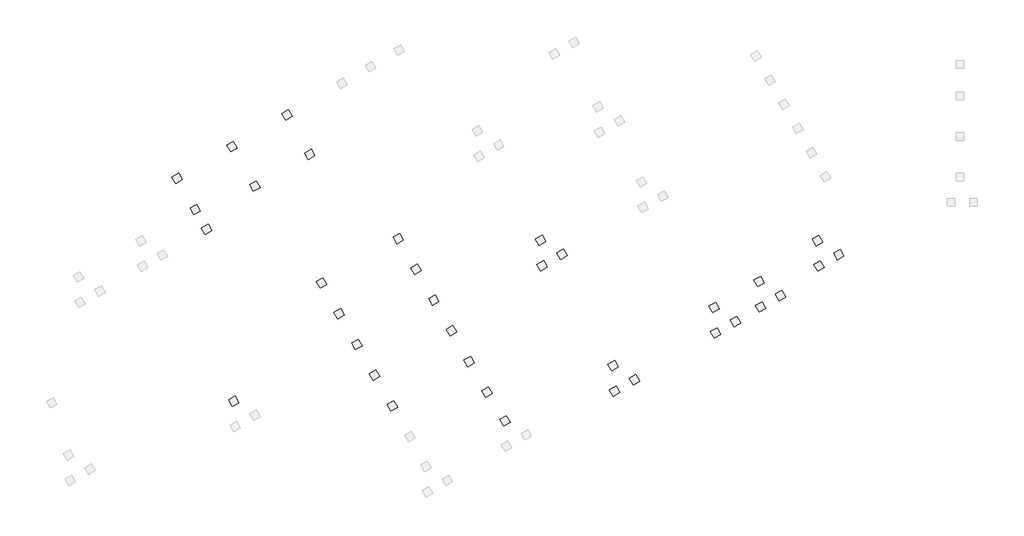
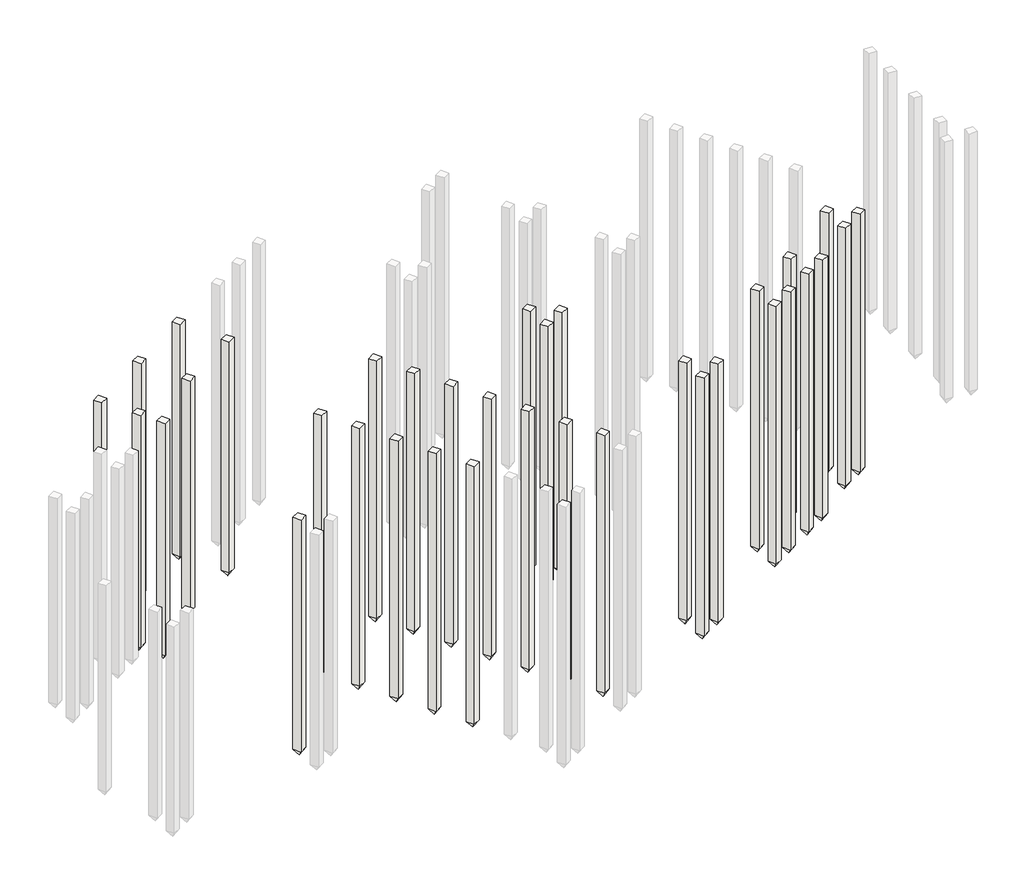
# One storey, part 2 of 6: 35 slabs.
"""IFC4 building model written with IfcOpenShell, lengths in millimetres."""

from ifc_helpers import new_model, si_unit, origin, place, context, project, spatial, faceted_brep, element, save

model = new_model("IFC4")

# Units and contexts
model_context = context("Model", 3, world=origin())
ifc_project = project(units=[si_unit("LENGTHUNIT", "METRE", prefix="MILLI")], contexts=[model_context])

# Site, building, storey
site = spatial("IfcSite", under=ifc_project)
building = spatial("IfcBuilding", under=site)
storey = spatial("IfcBuildingStorey", under=building, Name="КЖм.-1.150 (Верх свай 1)", Elevation=-1150.0)

# Slabs
placement = place(None, origin())
element("IfcSlab", 1, ObjectType="Бетонная свая прямоугольного сечения : C100.30-9", at=placement, inside=storey, context=model_context, shape_type="Brep", body=[
    faceted_brep([(13121.8088295, 8732.0915666, -1150.0), (12862.0012084, 8582.0915666, -1150.0), (13012.0012084, 8322.2839455, -1150.0), (13271.8088295, 8472.2839455, -1150.0), (13121.8088295, 8732.0915666, -1200.0), (13121.8088295, 8732.0915666, -1300.0), (13121.8088295, 8732.0915666, -11150.0), (12862.0012084, 8582.0915666, -11150.0), (12862.0012084, 8582.0915666, -1300.0), (12862.0012084, 8582.0915666, -1200.0), (13012.0012084, 8322.2839455, -11150.0), (13012.0012084, 8322.2839455, -1300.0), (13012.0012084, 8322.2839455, -1200.0), (13271.8088295, 8472.2839455, -11150.0), (13271.8088295, 8472.2839455, -1300.0), (13271.8088295, 8472.2839455, -1200.0), (13067.0808452, 8527.7283386, -11400.0), (13067.4808452, 8527.0355183, -11400.0), (13066.7880249, 8526.6355183, -11400.0), (13066.3880249, 8527.3283386, -11400.0)], [[[0, 1, 2, 3]], [[1, 0, 4, 5, 6, 7, 8, 9]], [[2, 1, 9, 8, 7, 10, 11, 12]], [[3, 2, 12, 11, 10, 13, 14, 15]], [[0, 3, 15, 14, 13, 6, 5, 4]], [[16, 17, 18, 19]], [[17, 16, 6, 13]], [[18, 17, 13, 10]], [[19, 18, 10, 7]], [[16, 19, 7, 6]]]),
])
element("IfcSlab", 2, ObjectType="Бетонная свая прямоугольного сечения : C100.30-9", at=placement, inside=storey, context=model_context, shape_type="Brep", body=[
    faceted_brep([(17446.66985, 9901.5697383, -1150.0), (17186.8622289, 9751.5697383, -1150.0), (17336.8622289, 9491.7621171, -1150.0), (17596.66985, 9641.7621171, -1150.0), (17446.66985, 9901.5697383, -1200.0), (17446.66985, 9901.5697383, -1300.0), (17446.66985, 9901.5697383, -11150.0), (17186.8622289, 9751.5697383, -11150.0), (17186.8622289, 9751.5697383, -1300.0), (17186.8622289, 9751.5697383, -1200.0), (17336.8622289, 9491.7621171, -11150.0), (17336.8622289, 9491.7621171, -1300.0), (17336.8622289, 9491.7621171, -1200.0), (17596.66985, 9641.7621171, -11150.0), (17596.66985, 9641.7621171, -1300.0), (17596.66985, 9641.7621171, -1200.0), (17391.9418657, 9697.2065102, -11400.0), (17392.3418657, 9696.5136899, -11400.0), (17391.6490454, 9696.1136899, -11400.0), (17391.2490454, 9696.8065102, -11400.0)], [[[0, 1, 2, 3]], [[1, 0, 4, 5, 6, 7, 8, 9]], [[2, 1, 9, 8, 7, 10, 11, 12]], [[3, 2, 12, 11, 10, 13, 14, 15]], [[0, 3, 15, 14, 13, 6, 5, 4]], [[16, 17, 18, 19]], [[17, 16, 6, 13]], [[18, 17, 13, 10]], [[19, 18, 10, 7]], [[16, 19, 7, 6]]]),
])
element("IfcSlab", 3, ObjectType="Бетонная свая прямоугольного сечения : C100.30-9", at=placement, inside=storey, context=model_context, shape_type="Brep", body=[
    faceted_brep([(18226.0546898, 10351.6355906, -1150.0), (17966.2470687, 10201.6355906, -1150.0), (18116.2470687, 9941.8279695, -1150.0), (18376.0546898, 10091.8279695, -1150.0), (18226.0546898, 10351.6355906, -1200.0), (18226.0546898, 10351.6355906, -1300.0), (18226.0546898, 10351.6355906, -11150.0), (17966.2470687, 10201.6355906, -11150.0), (17966.2470687, 10201.6355906, -1300.0), (17966.2470687, 10201.6355906, -1200.0), (18116.2470687, 9941.8279695, -11150.0), (18116.2470687, 9941.8279695, -1300.0), (18116.2470687, 9941.8279695, -1200.0), (18376.0546898, 10091.8279695, -11150.0), (18376.0546898, 10091.8279695, -1300.0), (18376.0546898, 10091.8279695, -1200.0), (18171.3267055, 10147.2723626, -11400.0), (18171.7267055, 10146.5795423, -11400.0), (18171.0338852, 10146.1795423, -11400.0), (18170.6338852, 10146.8723626, -11400.0)], [[[0, 1, 2, 3]], [[1, 0, 4, 5, 6, 7, 8, 9]], [[2, 1, 9, 8, 7, 10, 11, 12]], [[3, 2, 12, 11, 10, 13, 14, 15]], [[0, 3, 15, 14, 13, 6, 5, 4]], [[16, 17, 18, 19]], [[17, 16, 6, 13]], [[18, 17, 13, 10]], [[19, 18, 10, 7]], [[16, 19, 7, 6]]]),
])
element("IfcSlab", 4, ObjectType="Бетонная свая прямоугольного сечения : C100.30-9", at=placement, inside=storey, context=model_context, shape_type="Brep", body=[
    faceted_brep([(17386.2964178, 10905.9875052, -1150.0), (17126.4887967, 10755.9875052, -1150.0), (17276.4887967, 10496.1798841, -1150.0), (17536.2964178, 10646.1798841, -1150.0), (17386.2964178, 10905.9875052, -1200.0), (17386.2964178, 10905.9875052, -1300.0), (17386.2964178, 10905.9875052, -11150.0), (17126.4887967, 10755.9875052, -11150.0), (17126.4887967, 10755.9875052, -1300.0), (17126.4887967, 10755.9875052, -1200.0), (17276.4887967, 10496.1798841, -11150.0), (17276.4887967, 10496.1798841, -1300.0), (17276.4887967, 10496.1798841, -1200.0), (17536.2964178, 10646.1798841, -11150.0), (17536.2964178, 10646.1798841, -1300.0), (17536.2964178, 10646.1798841, -1200.0), (17331.5684335, 10701.6242771, -11400.0), (17331.9684335, 10700.9314568, -11400.0), (17331.2756131, 10700.5314568, -11400.0), (17330.8756131, 10701.2242771, -11400.0)], [[[0, 1, 2, 3]], [[1, 0, 4, 5, 6, 7, 8, 9]], [[2, 1, 9, 8, 7, 10, 11, 12]], [[3, 2, 12, 11, 10, 13, 14, 15]], [[0, 3, 15, 14, 13, 6, 5, 4]], [[16, 17, 18, 19]], [[17, 16, 6, 13]], [[18, 17, 13, 10]], [[19, 18, 10, 7]], [[16, 19, 7, 6]]]),
])
element("IfcSlab", 5, ObjectType="Бетонная свая прямоугольного сечения : C100.30-9", at=placement, inside=storey, context=model_context, shape_type="Brep", body=[
    faceted_brep([(21430.3926606, 12202.0236698, -1150.0), (21170.5850395, 12052.0236698, -1150.0), (21320.5850395, 11792.2160487, -1150.0), (21580.3926606, 11942.2160487, -1150.0), (21430.3926606, 12202.0236698, -1200.0), (21430.3926606, 12202.0236698, -1300.0), (21430.3926606, 12202.0236698, -11150.0), (21170.5850395, 12052.0236698, -11150.0), (21170.5850395, 12052.0236698, -1300.0), (21170.5850395, 12052.0236698, -1200.0), (21320.5850395, 11792.2160487, -11150.0), (21320.5850395, 11792.2160487, -1300.0), (21320.5850395, 11792.2160487, -1200.0), (21580.3926606, 11942.2160487, -11150.0), (21580.3926606, 11942.2160487, -1300.0), (21580.3926606, 11942.2160487, -1200.0), (21375.6646763, 11997.6604418, -11400.0), (21376.0646763, 11996.9676214, -11400.0), (21375.371856, 11996.5676214, -11400.0), (21374.971856, 11997.2604418, -11400.0)], [[[0, 1, 2, 3]], [[1, 0, 4, 5, 6, 7, 8, 9]], [[2, 1, 9, 8, 7, 10, 11, 12]], [[3, 2, 12, 11, 10, 13, 14, 15]], [[0, 3, 15, 14, 13, 6, 5, 4]], [[16, 17, 18, 19]], [[17, 16, 6, 13]], [[18, 17, 13, 10]], [[19, 18, 10, 7]], [[16, 19, 7, 6]]]),
])
element("IfcSlab", 6, ObjectType="Бетонная свая прямоугольного сечения : C100.30-9", at=placement, inside=storey, context=model_context, shape_type="Brep", body=[
    faceted_brep([(22209.7775004, 12652.0895222, -1150.0), (21949.9698793, 12502.0895222, -1150.0), (22099.9698793, 12242.281901, -1150.0), (22359.7775004, 12392.281901, -1150.0), (22209.7775004, 12652.0895222, -1200.0), (22209.7775004, 12652.0895222, -1300.0), (22209.7775004, 12652.0895222, -11150.0), (21949.9698793, 12502.0895222, -11150.0), (21949.9698793, 12502.0895222, -1300.0), (21949.9698793, 12502.0895222, -1200.0), (22099.9698793, 12242.281901, -11150.0), (22099.9698793, 12242.281901, -1300.0), (22099.9698793, 12242.281901, -1200.0), (22359.7775004, 12392.281901, -11150.0), (22359.7775004, 12392.281901, -1300.0), (22359.7775004, 12392.281901, -1200.0), (22155.0495161, 12447.7262941, -11400.0), (22155.4495161, 12447.0334738, -11400.0), (22154.7566958, 12446.6334738, -11400.0), (22154.3566958, 12447.3262941, -11400.0)], [[[0, 1, 2, 3]], [[1, 0, 4, 5, 6, 7, 8, 9]], [[2, 1, 9, 8, 7, 10, 11, 12]], [[3, 2, 12, 11, 10, 13, 14, 15]], [[0, 3, 15, 14, 13, 6, 5, 4]], [[16, 17, 18, 19]], [[17, 16, 6, 13]], [[18, 17, 13, 10]], [[19, 18, 10, 7]], [[16, 19, 7, 6]]]),
])
element("IfcSlab", 7, ObjectType="Бетонная свая прямоугольного сечения : C100.30-9", at=placement, inside=storey, context=model_context, shape_type="Brep", body=[
    faceted_brep([(21370.0192284, 13206.4414367, -1150.0), (21110.2116073, 13056.4414367, -1150.0), (21260.2116073, 12796.6338156, -1150.0), (21520.0192284, 12946.6338156, -1150.0), (21370.0192284, 13206.4414367, -1200.0), (21370.0192284, 13206.4414367, -1300.0), (21370.0192284, 13206.4414367, -11150.0), (21110.2116073, 13056.4414367, -11150.0), (21110.2116073, 13056.4414367, -1300.0), (21110.2116073, 13056.4414367, -1200.0), (21260.2116073, 12796.6338156, -11150.0), (21260.2116073, 12796.6338156, -1300.0), (21260.2116073, 12796.6338156, -1200.0), (21520.0192284, 12946.6338156, -11150.0), (21520.0192284, 12946.6338156, -1300.0), (21520.0192284, 12946.6338156, -1200.0), (21315.2912441, 13002.0782087, -11400.0), (21315.6912441, 13001.3853884, -11400.0), (21314.9984237, 13000.9853884, -11400.0), (21314.5984237, 13001.6782087, -11400.0)], [[[0, 1, 2, 3]], [[1, 0, 4, 5, 6, 7, 8, 9]], [[2, 1, 9, 8, 7, 10, 11, 12]], [[3, 2, 12, 11, 10, 13, 14, 15]], [[0, 3, 15, 14, 13, 6, 5, 4]], [[16, 17, 18, 19]], [[17, 16, 6, 13]], [[18, 17, 13, 10]], [[19, 18, 10, 7]], [[16, 19, 7, 6]]]),
])
element("IfcSlab", 8, ObjectType="Бетонная свая прямоугольного сечения : C100.30-9", at=placement, inside=storey, context=model_context, shape_type="Brep", body=[
    faceted_brep([(23205.4567886, 13227.0581522, -1150.0), (22945.6491675, 13077.0581522, -1150.0), (23095.6491675, 12817.250531, -1150.0), (23355.4567886, 12967.250531, -1150.0), (23205.4567886, 13227.0581522, -1200.0), (23205.4567886, 13227.0581522, -1300.0), (23205.4567886, 13227.0581522, -11150.0), (22945.6491675, 13077.0581522, -11150.0), (22945.6491675, 13077.0581522, -1300.0), (22945.6491675, 13077.0581522, -1200.0), (23095.6491675, 12817.250531, -11150.0), (23095.6491675, 12817.250531, -1300.0), (23095.6491675, 12817.250531, -1200.0), (23355.4567886, 12967.250531, -11150.0), (23355.4567886, 12967.250531, -1300.0), (23355.4567886, 12967.250531, -1200.0), (23150.7288042, 13022.6949241, -11400.0), (23151.1288042, 13022.0021038, -11400.0), (23150.4359839, 13021.6021038, -11400.0), (23150.0359839, 13022.2949241, -11400.0)], [[[0, 1, 2, 3]], [[1, 0, 4, 5, 6, 7, 8, 9]], [[2, 1, 9, 8, 7, 10, 11, 12]], [[3, 2, 12, 11, 10, 13, 14, 15]], [[0, 3, 15, 14, 13, 6, 5, 4]], [[16, 17, 18, 19]], [[17, 16, 6, 13]], [[18, 17, 13, 10]], [[19, 18, 10, 7]], [[16, 19, 7, 6]]]),
])
element("IfcSlab", 9, ObjectType="Бетонная свая прямоугольного сечения : C100.30-9", at=placement, inside=storey, context=model_context, shape_type="Brep", body=[
    faceted_brep([(23984.8416284, 13677.1240046, -1150.0), (23725.0340073, 13527.1240046, -1150.0), (23875.0340073, 13267.3163834, -1150.0), (24134.8416284, 13417.3163834, -1150.0), (23984.8416284, 13677.1240046, -1200.0), (23984.8416284, 13677.1240046, -1300.0), (23984.8416284, 13677.1240046, -11150.0), (23725.0340073, 13527.1240046, -11150.0), (23725.0340073, 13527.1240046, -1300.0), (23725.0340073, 13527.1240046, -1200.0), (23875.0340073, 13267.3163834, -11150.0), (23875.0340073, 13267.3163834, -1300.0), (23875.0340073, 13267.3163834, -1200.0), (24134.8416284, 13417.3163834, -11150.0), (24134.8416284, 13417.3163834, -1300.0), (24134.8416284, 13417.3163834, -1200.0), (23930.1136441, 13472.7607765, -11400.0), (23930.5136441, 13472.0679562, -11400.0), (23929.8208237, 13471.6679562, -11400.0), (23929.4208237, 13472.3607765, -11400.0)], [[[0, 1, 2, 3]], [[1, 0, 4, 5, 6, 7, 8, 9]], [[2, 1, 9, 8, 7, 10, 11, 12]], [[3, 2, 12, 11, 10, 13, 14, 15]], [[0, 3, 15, 14, 13, 6, 5, 4]], [[16, 17, 18, 19]], [[17, 16, 6, 13]], [[18, 17, 13, 10]], [[19, 18, 10, 7]], [[16, 19, 7, 6]]]),
])
element("IfcSlab", 10, ObjectType="Бетонная свая прямоугольного сечения : C100.30-9", at=placement, inside=storey, context=model_context, shape_type="Brep", body=[
    faceted_brep([(23145.0833564, 14231.4759191, -1150.0), (22885.2757352, 14081.4759191, -1150.0), (23035.2757352, 13821.668298, -1150.0), (23295.0833564, 13971.668298, -1150.0), (23145.0833564, 14231.4759191, -1200.0), (23145.0833564, 14231.4759191, -1300.0), (23145.0833564, 14231.4759191, -11150.0), (22885.2757352, 14081.4759191, -11150.0), (22885.2757352, 14081.4759191, -1300.0), (22885.2757352, 14081.4759191, -1200.0), (23035.2757352, 13821.668298, -11150.0), (23035.2757352, 13821.668298, -1300.0), (23035.2757352, 13821.668298, -1200.0), (23295.0833564, 13971.668298, -11150.0), (23295.0833564, 13971.668298, -1300.0), (23295.0833564, 13971.668298, -1200.0), (23090.355372, 14027.1126911, -11400.0), (23090.755372, 14026.4198707, -11400.0), (23090.0625517, 14026.0198707, -11400.0), (23089.6625517, 14026.7126911, -11400.0)], [[[0, 1, 2, 3]], [[1, 0, 4, 5, 6, 7, 8, 9]], [[2, 1, 9, 8, 7, 10, 11, 12]], [[3, 2, 12, 11, 10, 13, 14, 15]], [[0, 3, 15, 14, 13, 6, 5, 4]], [[16, 17, 18, 19]], [[17, 16, 6, 13]], [[18, 17, 13, 10]], [[19, 18, 10, 7]], [[16, 19, 7, 6]]]),
])
element("IfcSlab", 11, ObjectType="Бетонная свая прямоугольного сечения : C100.30-9", at=placement, inside=storey, context=model_context, shape_type="Brep", body=[
    faceted_brep([(14586.2554737, 14854.9825627, -1150.0), (14326.4478526, 14704.9825627, -1150.0), (14476.4478526, 14445.1749415, -1150.0), (14736.2554737, 14595.1749415, -1150.0), (14586.2554737, 14854.9825627, -1200.0), (14586.2554737, 14854.9825627, -1300.0), (14586.2554737, 14854.9825627, -11150.0), (14326.4478526, 14704.9825627, -11150.0), (14326.4478526, 14704.9825627, -1300.0), (14326.4478526, 14704.9825627, -1200.0), (14476.4478526, 14445.1749415, -11150.0), (14476.4478526, 14445.1749415, -1300.0), (14476.4478526, 14445.1749415, -1200.0), (14736.2554737, 14595.1749415, -11150.0), (14736.2554737, 14595.1749415, -1300.0), (14736.2554737, 14595.1749415, -1200.0), (14531.5274894, 14650.6193346, -11400.0), (14531.9274894, 14649.9265143, -11400.0), (14531.234669, 14649.5265143, -11400.0), (14530.834669, 14650.2193346, -11400.0)], [[[0, 1, 2, 3]], [[1, 0, 4, 5, 6, 7, 8, 9]], [[2, 1, 9, 8, 7, 10, 11, 12]], [[3, 2, 12, 11, 10, 13, 14, 15]], [[0, 3, 15, 14, 13, 6, 5, 4]], [[16, 17, 18, 19]], [[17, 16, 6, 13]], [[18, 17, 13, 10]], [[19, 18, 10, 7]], [[16, 19, 7, 6]]]),
])
element("IfcSlab", 12, ObjectType="Бетонная свая прямоугольного сечения : C100.30-9", at=placement, inside=storey, context=model_context, shape_type="Brep", body=[
    faceted_brep([(15365.6403135, 15305.0484151, -1150.0), (15105.8326924, 15155.0484151, -1150.0), (15255.8326924, 14895.2407939, -1150.0), (15515.6403135, 15045.2407939, -1150.0), (15365.6403135, 15305.0484151, -1200.0), (15365.6403135, 15305.0484151, -1300.0), (15365.6403135, 15305.0484151, -11150.0), (15105.8326924, 15155.0484151, -11150.0), (15105.8326924, 15155.0484151, -1300.0), (15105.8326924, 15155.0484151, -1200.0), (15255.8326924, 14895.2407939, -11150.0), (15255.8326924, 14895.2407939, -1300.0), (15255.8326924, 14895.2407939, -1200.0), (15515.6403135, 15045.2407939, -11150.0), (15515.6403135, 15045.2407939, -1300.0), (15515.6403135, 15045.2407939, -1200.0), (15310.9123292, 15100.685187, -11400.0), (15311.3123292, 15099.9923667, -11400.0), (15310.6195089, 15099.5923667, -11400.0), (15310.2195089, 15100.285187, -11400.0)], [[[0, 1, 2, 3]], [[1, 0, 4, 5, 6, 7, 8, 9]], [[2, 1, 9, 8, 7, 10, 11, 12]], [[3, 2, 12, 11, 10, 13, 14, 15]], [[0, 3, 15, 14, 13, 6, 5, 4]], [[16, 17, 18, 19]], [[17, 16, 6, 13]], [[18, 17, 13, 10]], [[19, 18, 10, 7]], [[16, 19, 7, 6]]]),
])
element("IfcSlab", 13, ObjectType="Бетонная свая прямоугольного сечения : C100.30-9", at=placement, inside=storey, context=model_context, shape_type="Brep", body=[
    faceted_brep([(14525.8820415, 15859.4003296, -1150.0), (14266.0744204, 15709.4003296, -1150.0), (14416.0744204, 15449.5927085, -1150.0), (14675.8820415, 15599.5927085, -1150.0), (14525.8820415, 15859.4003296, -1200.0), (14525.8820415, 15859.4003296, -1300.0), (14525.8820415, 15859.4003296, -11150.0), (14266.0744204, 15709.4003296, -11150.0), (14266.0744204, 15709.4003296, -1300.0), (14266.0744204, 15709.4003296, -1200.0), (14416.0744204, 15449.5927085, -11150.0), (14416.0744204, 15449.5927085, -1300.0), (14416.0744204, 15449.5927085, -1200.0), (14675.8820415, 15599.5927085, -11150.0), (14675.8820415, 15599.5927085, -1300.0), (14675.8820415, 15599.5927085, -1200.0), (14471.1540572, 15655.0371016, -11400.0), (14471.5540572, 15654.3442812, -11400.0), (14470.8612368, 15653.9442812, -11400.0), (14470.4612368, 15654.6371016, -11400.0)], [[[0, 1, 2, 3]], [[1, 0, 4, 5, 6, 7, 8, 9]], [[2, 1, 9, 8, 7, 10, 11, 12]], [[3, 2, 12, 11, 10, 13, 14, 15]], [[0, 3, 15, 14, 13, 6, 5, 4]], [[16, 17, 18, 19]], [[17, 16, 6, 13]], [[18, 17, 13, 10]], [[19, 18, 10, 7]], [[16, 19, 7, 6]]]),
])
element("IfcSlab", 14, ObjectType="Бетонная свая прямоугольного сечения : C100.30-9", at=placement, inside=storey, context=model_context, shape_type="Brep", body=[
    faceted_brep([(12407.2277087, 9861.1525782, -1150.0), (12147.4200876, 9711.1525782, -1150.0), (12297.4200876, 9451.3449571, -1150.0), (12557.2277087, 9601.3449571, -1150.0), (12407.2277087, 9861.1525782, -1200.0), (12407.2277087, 9861.1525782, -1300.0), (12407.2277087, 9861.1525782, -11150.0), (12147.4200876, 9711.1525782, -11150.0), (12147.4200876, 9711.1525782, -1300.0), (12147.4200876, 9711.1525782, -1200.0), (12297.4200876, 9451.3449571, -11150.0), (12297.4200876, 9451.3449571, -1300.0), (12297.4200876, 9451.3449571, -1200.0), (12557.2277087, 9601.3449571, -11150.0), (12557.2277087, 9601.3449571, -1300.0), (12557.2277087, 9601.3449571, -1200.0), (12352.4997243, 9656.7893502, -11400.0), (12352.8997243, 9656.0965299, -11400.0), (12352.206904, 9655.6965299, -11400.0), (12351.806904, 9656.3893502, -11400.0)], [[[0, 1, 2, 3]], [[1, 0, 4, 5, 6, 7, 8, 9]], [[2, 1, 9, 8, 7, 10, 11, 12]], [[3, 2, 12, 11, 10, 13, 14, 15]], [[0, 3, 15, 14, 13, 6, 5, 4]], [[16, 17, 18, 19]], [[17, 16, 6, 13]], [[18, 17, 13, 10]], [[19, 18, 10, 7]], [[16, 19, 7, 6]]]),
])
element("IfcSlab", 15, ObjectType="Бетонная свая прямоугольного сечения : C100.30-9", at=placement, inside=storey, context=model_context, shape_type="Brep", body=[
    faceted_brep([(11707.8501895, 11073.9473216, -1150.0), (11448.0425684, 10923.9473216, -1150.0), (11598.0425684, 10664.1397005, -1150.0), (11857.8501895, 10814.1397005, -1150.0), (11707.8501895, 11073.9473216, -1200.0), (11707.8501895, 11073.9473216, -1300.0), (11707.8501895, 11073.9473216, -11150.0), (11448.0425684, 10923.9473216, -11150.0), (11448.0425684, 10923.9473216, -1300.0), (11448.0425684, 10923.9473216, -1200.0), (11598.0425684, 10664.1397005, -11150.0), (11598.0425684, 10664.1397005, -1300.0), (11598.0425684, 10664.1397005, -1200.0), (11857.8501895, 10814.1397005, -11150.0), (11857.8501895, 10814.1397005, -1300.0), (11857.8501895, 10814.1397005, -1200.0), (11653.1222052, 10869.5840935, -11400.0), (11653.5222052, 10868.8912732, -11400.0), (11652.8293848, 10868.4912732, -11400.0), (11652.4293848, 10869.1840935, -11400.0)], [[[0, 1, 2, 3]], [[1, 0, 4, 5, 6, 7, 8, 9]], [[2, 1, 9, 8, 7, 10, 11, 12]], [[3, 2, 12, 11, 10, 13, 14, 15]], [[0, 3, 15, 14, 13, 6, 5, 4]], [[16, 17, 18, 19]], [[17, 16, 6, 13]], [[18, 17, 13, 10]], [[19, 18, 10, 7]], [[16, 19, 7, 6]]]),
])
element("IfcSlab", 16, ObjectType="Бетонная свая прямоугольного сечения : C100.30-9", at=placement, inside=storey, context=model_context, shape_type="Brep", body=[
    faceted_brep([(11008.472671, 12286.7420638, -1150.0), (10748.6650499, 12136.7420638, -1150.0), (10898.6650499, 11876.9344426, -1150.0), (11158.472671, 12026.9344426, -1150.0), (11008.472671, 12286.7420638, -1200.0), (11008.472671, 12286.7420638, -1300.0), (11008.472671, 12286.7420638, -11150.0), (10748.6650499, 12136.7420638, -11150.0), (10748.6650499, 12136.7420638, -1300.0), (10748.6650499, 12136.7420638, -1200.0), (10898.6650499, 11876.9344426, -11150.0), (10898.6650499, 11876.9344426, -1300.0), (10898.6650499, 11876.9344426, -1200.0), (11158.472671, 12026.9344426, -11150.0), (11158.472671, 12026.9344426, -1300.0), (11158.472671, 12026.9344426, -1200.0), (10953.7446867, 12082.3788357, -11400.0), (10954.1446867, 12081.6860154, -11400.0), (10953.4518663, 12081.2860154, -11400.0), (10953.0518663, 12081.9788357, -11400.0)], [[[0, 1, 2, 3]], [[1, 0, 4, 5, 6, 7, 8, 9]], [[2, 1, 9, 8, 7, 10, 11, 12]], [[3, 2, 12, 11, 10, 13, 14, 15]], [[0, 3, 15, 14, 13, 6, 5, 4]], [[16, 17, 18, 19]], [[17, 16, 6, 13]], [[18, 17, 13, 10]], [[19, 18, 10, 7]], [[16, 19, 7, 6]]]),
])
element("IfcSlab", 17, ObjectType="Бетонная свая прямоугольного сечения : C100.30-9", at=placement, inside=storey, context=model_context, shape_type="Brep", body=[
    faceted_brep([(10309.0951525, 13499.5368059, -1150.0), (10049.2875314, 13349.5368059, -1150.0), (10199.2875314, 13089.7291848, -1150.0), (10459.0951525, 13239.7291848, -1150.0), (10309.0951525, 13499.5368059, -1200.0), (10309.0951525, 13499.5368059, -1300.0), (10309.0951525, 13499.5368059, -11150.0), (10049.2875314, 13349.5368059, -11150.0), (10049.2875314, 13349.5368059, -1300.0), (10049.2875314, 13349.5368059, -1200.0), (10199.2875314, 13089.7291848, -11150.0), (10199.2875314, 13089.7291848, -1300.0), (10199.2875314, 13089.7291848, -1200.0), (10459.0951525, 13239.7291848, -11150.0), (10459.0951525, 13239.7291848, -1300.0), (10459.0951525, 13239.7291848, -1200.0), (10254.3671682, 13295.1735779, -11400.0), (10254.7671682, 13294.4807576, -11400.0), (10254.0743479, 13294.0807576, -11400.0), (10253.6743479, 13294.7735779, -11400.0)], [[[0, 1, 2, 3]], [[1, 0, 4, 5, 6, 7, 8, 9]], [[2, 1, 9, 8, 7, 10, 11, 12]], [[3, 2, 12, 11, 10, 13, 14, 15]], [[0, 3, 15, 14, 13, 6, 5, 4]], [[16, 17, 18, 19]], [[17, 16, 6, 13]], [[18, 17, 13, 10]], [[19, 18, 10, 7]], [[16, 19, 7, 6]]]),
])
element("IfcSlab", 18, ObjectType="Бетонная свая прямоугольного сечения : C100.30-9", at=placement, inside=storey, context=model_context, shape_type="Brep", body=[
    faceted_brep([(9609.717634, 14712.3315481, -1150.0), (9349.9100129, 14562.3315481, -1150.0), (9499.9100129, 14302.523927, -1150.0), (9759.717634, 14452.523927, -1150.0), (9609.717634, 14712.3315481, -1200.0), (9609.717634, 14712.3315481, -1300.0), (9609.717634, 14712.3315481, -11150.0), (9349.9100129, 14562.3315481, -11150.0), (9349.9100129, 14562.3315481, -1300.0), (9349.9100129, 14562.3315481, -1200.0), (9499.9100129, 14302.523927, -11150.0), (9499.9100129, 14302.523927, -1300.0), (9499.9100129, 14302.523927, -1200.0), (9759.717634, 14452.523927, -11150.0), (9759.717634, 14452.523927, -1300.0), (9759.717634, 14452.523927, -1200.0), (9554.9896497, 14507.96832, -11400.0), (9555.3896497, 14507.2754997, -11400.0), (9554.6968294, 14506.8754997, -11400.0), (9554.2968294, 14507.56832, -11400.0)], [[[0, 1, 2, 3]], [[1, 0, 4, 5, 6, 7, 8, 9]], [[2, 1, 9, 8, 7, 10, 11, 12]], [[3, 2, 12, 11, 10, 13, 14, 15]], [[0, 3, 15, 14, 13, 6, 5, 4]], [[16, 17, 18, 19]], [[17, 16, 6, 13]], [[18, 17, 13, 10]], [[19, 18, 10, 7]], [[16, 19, 7, 6]]]),
])
element("IfcSlab", 19, ObjectType="Бетонная свая прямоугольного сечения : C100.30-9", at=placement, inside=storey, context=model_context, shape_type="Brep", body=[
    faceted_brep([(8910.3401155, 15925.1262903, -1150.0), (8650.5324944, 15775.1262903, -1150.0), (8800.5324944, 15515.3186691, -1150.0), (9060.3401155, 15665.3186691, -1150.0), (8910.3401155, 15925.1262903, -1200.0), (8910.3401155, 15925.1262903, -1300.0), (8910.3401155, 15925.1262903, -11150.0), (8650.5324944, 15775.1262903, -11150.0), (8650.5324944, 15775.1262903, -1300.0), (8650.5324944, 15775.1262903, -1200.0), (8800.5324944, 15515.3186691, -11150.0), (8800.5324944, 15515.3186691, -1300.0), (8800.5324944, 15515.3186691, -1200.0), (9060.3401155, 15665.3186691, -11150.0), (9060.3401155, 15665.3186691, -1300.0), (9060.3401155, 15665.3186691, -1200.0), (8855.6121312, 15720.7630622, -11400.0), (8856.0121312, 15720.0702419, -11400.0), (8855.3193109, 15719.6702419, -11400.0), (8854.9193109, 15720.3630622, -11400.0)], [[[0, 1, 2, 3]], [[1, 0, 4, 5, 6, 7, 8, 9]], [[2, 1, 9, 8, 7, 10, 11, 12]], [[3, 2, 12, 11, 10, 13, 14, 15]], [[0, 3, 15, 14, 13, 6, 5, 4]], [[16, 17, 18, 19]], [[17, 16, 6, 13]], [[18, 17, 13, 10]], [[19, 18, 10, 7]], [[16, 19, 7, 6]]]),
])
element("IfcSlab", 20, ObjectType="Бетонная свая прямоугольного сечения : C100.30-9", at=placement, inside=storey, context=model_context, shape_type="Brep", body=[
    faceted_brep([(8676.9094234, 9323.6901055, -1150.0), (8417.1018023, 9173.6901055, -1150.0), (8567.1018023, 8913.8824844, -1150.0), (8826.9094234, 9063.8824844, -1150.0), (8676.9094234, 9323.6901055, -1200.0), (8676.9094234, 9323.6901055, -1300.0), (8676.9094234, 9323.6901055, -11150.0), (8417.1018023, 9173.6901055, -11150.0), (8417.1018023, 9173.6901055, -1300.0), (8417.1018023, 9173.6901055, -1200.0), (8567.1018023, 8913.8824844, -11150.0), (8567.1018023, 8913.8824844, -1300.0), (8567.1018023, 8913.8824844, -1200.0), (8826.9094234, 9063.8824844, -11150.0), (8826.9094234, 9063.8824844, -1300.0), (8826.9094234, 9063.8824844, -1200.0), (8622.1814391, 9119.3268775, -11400.0), (8622.5814391, 9118.6340572, -11400.0), (8621.8886187, 9118.2340572, -11400.0), (8621.4886187, 9118.9268775, -11400.0)], [[[0, 1, 2, 3]], [[1, 0, 4, 5, 6, 7, 8, 9]], [[2, 1, 9, 8, 7, 10, 11, 12]], [[3, 2, 12, 11, 10, 13, 14, 15]], [[0, 3, 15, 14, 13, 6, 5, 4]], [[16, 17, 18, 19]], [[17, 16, 6, 13]], [[18, 17, 13, 10]], [[19, 18, 10, 7]], [[16, 19, 7, 6]]]),
])
element("IfcSlab", 21, ObjectType="Бетонная свая прямоугольного сечения : C100.30-9", at=placement, inside=storey, context=model_context, shape_type="Brep", body=[
    faceted_brep([(7977.5319056, 10536.4848465, -1150.0), (7717.7242845, 10386.4848465, -1150.0), (7867.7242845, 10126.6772254, -1150.0), (8127.5319056, 10276.6772254, -1150.0), (7977.5319056, 10536.4848465, -1200.0), (7977.5319056, 10536.4848465, -1300.0), (7977.5319056, 10536.4848465, -11150.0), (7717.7242845, 10386.4848465, -11150.0), (7717.7242845, 10386.4848465, -1300.0), (7717.7242845, 10386.4848465, -1200.0), (7867.7242845, 10126.6772254, -11150.0), (7867.7242845, 10126.6772254, -1300.0), (7867.7242845, 10126.6772254, -1200.0), (8127.5319056, 10276.6772254, -11150.0), (8127.5319056, 10276.6772254, -1300.0), (8127.5319056, 10276.6772254, -1200.0), (7922.8039212, 10332.1216185, -11400.0), (7923.2039212, 10331.4287982, -11400.0), (7922.5111009, 10331.0287982, -11400.0), (7922.1111009, 10331.7216185, -11400.0)], [[[0, 1, 2, 3]], [[1, 0, 4, 5, 6, 7, 8, 9]], [[2, 1, 9, 8, 7, 10, 11, 12]], [[3, 2, 12, 11, 10, 13, 14, 15]], [[0, 3, 15, 14, 13, 6, 5, 4]], [[16, 17, 18, 19]], [[17, 16, 6, 13]], [[18, 17, 13, 10]], [[19, 18, 10, 7]], [[16, 19, 7, 6]]]),
])
element("IfcSlab", 22, ObjectType="Бетонная свая прямоугольного сечения : C100.30-9", at=placement, inside=storey, context=model_context, shape_type="Brep", body=[
    faceted_brep([(7278.1543864, 11749.2795899, -1150.0), (7018.3467653, 11599.2795899, -1150.0), (7168.3467653, 11339.4719687, -1150.0), (7428.1543864, 11489.4719687, -1150.0), (7278.1543864, 11749.2795899, -1200.0), (7278.1543864, 11749.2795899, -1300.0), (7278.1543864, 11749.2795899, -11150.0), (7018.3467653, 11599.2795899, -11150.0), (7018.3467653, 11599.2795899, -1300.0), (7018.3467653, 11599.2795899, -1200.0), (7168.3467653, 11339.4719687, -11150.0), (7168.3467653, 11339.4719687, -1300.0), (7168.3467653, 11339.4719687, -1200.0), (7428.1543864, 11489.4719687, -11150.0), (7428.1543864, 11489.4719687, -1300.0), (7428.1543864, 11489.4719687, -1200.0), (7223.4264021, 11544.9163618, -11400.0), (7223.8264021, 11544.2235415, -11400.0), (7223.1335818, 11543.8235415, -11400.0), (7222.7335818, 11544.5163618, -11400.0)], [[[0, 1, 2, 3]], [[1, 0, 4, 5, 6, 7, 8, 9]], [[2, 1, 9, 8, 7, 10, 11, 12]], [[3, 2, 12, 11, 10, 13, 14, 15]], [[0, 3, 15, 14, 13, 6, 5, 4]], [[16, 17, 18, 19]], [[17, 16, 6, 13]], [[18, 17, 13, 10]], [[19, 18, 10, 7]], [[16, 19, 7, 6]]]),
])
element("IfcSlab", 23, ObjectType="Бетонная свая прямоугольного сечения : C100.30-9", at=placement, inside=storey, context=model_context, shape_type="Brep", body=[
    faceted_brep([(6578.7768679, 12962.074332, -1150.0), (6318.9692468, 12812.074332, -1150.0), (6468.9692468, 12552.2667109, -1150.0), (6728.7768679, 12702.2667109, -1150.0), (6578.7768679, 12962.074332, -1200.0), (6578.7768679, 12962.074332, -1300.0), (6578.7768679, 12962.074332, -11150.0), (6318.9692468, 12812.074332, -11150.0), (6318.9692468, 12812.074332, -1300.0), (6318.9692468, 12812.074332, -1200.0), (6468.9692468, 12552.2667109, -11150.0), (6468.9692468, 12552.2667109, -1300.0), (6468.9692468, 12552.2667109, -1200.0), (6728.7768679, 12702.2667109, -11150.0), (6728.7768679, 12702.2667109, -1300.0), (6728.7768679, 12702.2667109, -1200.0), (6524.0488836, 12757.711104, -11400.0), (6524.4488836, 12757.0182837, -11400.0), (6523.7560633, 12756.6182837, -11400.0), (6523.3560633, 12757.311104, -11400.0)], [[[0, 1, 2, 3]], [[1, 0, 4, 5, 6, 7, 8, 9]], [[2, 1, 9, 8, 7, 10, 11, 12]], [[3, 2, 12, 11, 10, 13, 14, 15]], [[0, 3, 15, 14, 13, 6, 5, 4]], [[16, 17, 18, 19]], [[17, 16, 6, 13]], [[18, 17, 13, 10]], [[19, 18, 10, 7]], [[16, 19, 7, 6]]]),
])
element("IfcSlab", 24, ObjectType="Бетонная свая прямоугольного сечения : C100.30-9", at=placement, inside=storey, context=model_context, shape_type="Brep", body=[
    faceted_brep([(5879.3993494, 14174.8690742, -1150.0), (5619.5917283, 14024.8690742, -1150.0), (5769.5917283, 13765.0614531, -1150.0), (6029.3993494, 13915.0614531, -1150.0), (5879.3993494, 14174.8690742, -1200.0), (5879.3993494, 14174.8690742, -1300.0), (5879.3993494, 14174.8690742, -11150.0), (5619.5917283, 14024.8690742, -11150.0), (5619.5917283, 14024.8690742, -1300.0), (5619.5917283, 14024.8690742, -1200.0), (5769.5917283, 13765.0614531, -11150.0), (5769.5917283, 13765.0614531, -1300.0), (5769.5917283, 13765.0614531, -1200.0), (6029.3993494, 13915.0614531, -11150.0), (6029.3993494, 13915.0614531, -1300.0), (6029.3993494, 13915.0614531, -1200.0), (5824.6713651, 13970.5058462, -11400.0), (5825.0713651, 13969.8130258, -11400.0), (5824.3785448, 13969.4130258, -11400.0), (5823.9785448, 13970.1058462, -11400.0)], [[[0, 1, 2, 3]], [[1, 0, 4, 5, 6, 7, 8, 9]], [[2, 1, 9, 8, 7, 10, 11, 12]], [[3, 2, 12, 11, 10, 13, 14, 15]], [[0, 3, 15, 14, 13, 6, 5, 4]], [[16, 17, 18, 19]], [[17, 16, 6, 13]], [[18, 17, 13, 10]], [[19, 18, 10, 7]], [[16, 19, 7, 6]]]),
])
element("IfcSlab", 25, ObjectType="Бетонная свая прямоугольного сечения : C100.30-9", at=placement, inside=storey, context=model_context, shape_type="Brep", body=[
    faceted_brep([(25505.2124567, 14843.766151, -1150.0), (25245.4048356, 14693.766151, -1150.0), (25395.4048356, 14433.9585299, -1150.0), (25655.2124567, 14583.9585299, -1150.0), (25505.2124567, 14843.766151, -1200.0), (25505.2124567, 14843.766151, -1300.0), (25505.2124567, 14843.766151, -11150.0), (25245.4048356, 14693.766151, -11150.0), (25245.4048356, 14693.766151, -1300.0), (25245.4048356, 14693.766151, -1200.0), (25395.4048356, 14433.9585299, -11150.0), (25395.4048356, 14433.9585299, -1300.0), (25395.4048356, 14433.9585299, -1200.0), (25655.2124567, 14583.9585299, -11150.0), (25655.2124567, 14583.9585299, -1300.0), (25655.2124567, 14583.9585299, -1200.0), (25450.4844724, 14639.4029229, -11400.0), (25450.8844724, 14638.7101026, -11400.0), (25450.191652, 14638.3101026, -11400.0), (25449.791652, 14639.0029229, -11400.0)], [[[0, 1, 2, 3]], [[1, 0, 4, 5, 6, 7, 8, 9]], [[2, 1, 9, 8, 7, 10, 11, 12]], [[3, 2, 12, 11, 10, 13, 14, 15]], [[0, 3, 15, 14, 13, 6, 5, 4]], [[16, 17, 18, 19]], [[17, 16, 6, 13]], [[18, 17, 13, 10]], [[19, 18, 10, 7]], [[16, 19, 7, 6]]]),
])
element("IfcSlab", 26, ObjectType="Бетонная свая прямоугольного сечения : C100.30-9", at=placement, inside=storey, context=model_context, shape_type="Brep", body=[
    faceted_brep([(26284.5972965, 15293.8320034, -1150.0), (26024.7896754, 15143.8320034, -1150.0), (26174.7896754, 14884.0243822, -1150.0), (26434.5972965, 15034.0243822, -1150.0), (26284.5972965, 15293.8320034, -1200.0), (26284.5972965, 15293.8320034, -1300.0), (26284.5972965, 15293.8320034, -11150.0), (26024.7896754, 15143.8320034, -11150.0), (26024.7896754, 15143.8320034, -1300.0), (26024.7896754, 15143.8320034, -1200.0), (26174.7896754, 14884.0243822, -11150.0), (26174.7896754, 14884.0243822, -1300.0), (26174.7896754, 14884.0243822, -1200.0), (26434.5972965, 15034.0243822, -11150.0), (26434.5972965, 15034.0243822, -1300.0), (26434.5972965, 15034.0243822, -1200.0), (26229.8693122, 15089.4687753, -11400.0), (26230.2693122, 15088.775955, -11400.0), (26229.5764918, 15088.375955, -11400.0), (26229.1764918, 15089.0687753, -11400.0)], [[[0, 1, 2, 3]], [[1, 0, 4, 5, 6, 7, 8, 9]], [[2, 1, 9, 8, 7, 10, 11, 12]], [[3, 2, 12, 11, 10, 13, 14, 15]], [[0, 3, 15, 14, 13, 6, 5, 4]], [[16, 17, 18, 19]], [[17, 16, 6, 13]], [[18, 17, 13, 10]], [[19, 18, 10, 7]], [[16, 19, 7, 6]]]),
])
element("IfcSlab", 27, ObjectType="Бетонная свая прямоугольного сечения : C100.30-9", at=placement, inside=storey, context=model_context, shape_type="Brep", body=[
    faceted_brep([(25444.8390245, 15848.1839179, -1150.0), (25185.0314034, 15698.1839179, -1150.0), (25335.0314034, 15438.3762968, -1150.0), (25594.8390245, 15588.3762968, -1150.0), (25444.8390245, 15848.1839179, -1200.0), (25444.8390245, 15848.1839179, -1300.0), (25444.8390245, 15848.1839179, -11150.0), (25185.0314034, 15698.1839179, -11150.0), (25185.0314034, 15698.1839179, -1300.0), (25185.0314034, 15698.1839179, -1200.0), (25335.0314034, 15438.3762968, -11150.0), (25335.0314034, 15438.3762968, -1300.0), (25335.0314034, 15438.3762968, -1200.0), (25594.8390245, 15588.3762968, -11150.0), (25594.8390245, 15588.3762968, -1300.0), (25594.8390245, 15588.3762968, -1200.0), (25390.1110401, 15643.8206899, -11400.0), (25390.5110401, 15643.1278696, -11400.0), (25389.8182198, 15642.7278696, -11400.0), (25389.4182198, 15643.4206899, -11400.0)], [[[0, 1, 2, 3]], [[1, 0, 4, 5, 6, 7, 8, 9]], [[2, 1, 9, 8, 7, 10, 11, 12]], [[3, 2, 12, 11, 10, 13, 14, 15]], [[0, 3, 15, 14, 13, 6, 5, 4]], [[16, 17, 18, 19]], [[17, 16, 6, 13]], [[18, 17, 13, 10]], [[19, 18, 10, 7]], [[16, 19, 7, 6]]]),
])
element("IfcSlab", 28, ObjectType="Бетонная свая прямоугольного сечения : C90.30-8", at=placement, inside=storey, context=model_context, shape_type="Brep", body=[
    faceted_brep([(2421.7151761, 9504.8035014, -1150.0), (2161.9075549, 9354.8035014, -1150.0), (2311.9075549, 9094.9958803, -1150.0), (2571.7151761, 9244.9958803, -1150.0), (2421.7151761, 9504.8035014, -1200.0), (2421.7151761, 9504.8035014, -1300.0), (2421.7151761, 9504.8035014, -10150.0), (2161.9075549, 9354.8035014, -10150.0), (2161.9075549, 9354.8035014, -1300.0), (2161.9075549, 9354.8035014, -1200.0), (2311.9075549, 9094.9958803, -10150.0), (2311.9075549, 9094.9958803, -1300.0), (2311.9075549, 9094.9958803, -1200.0), (2571.7151761, 9244.9958803, -10150.0), (2571.7151761, 9244.9958803, -1300.0), (2571.7151761, 9244.9958803, -1200.0), (2366.9871917, 9300.4402734, -10400.0), (2367.3871917, 9299.7474531, -10400.0), (2366.6943714, 9299.3474531, -10400.0), (2366.2943714, 9300.0402734, -10400.0)], [[[0, 1, 2, 3]], [[1, 0, 4, 5, 6, 7, 8, 9]], [[2, 1, 9, 8, 7, 10, 11, 12]], [[3, 2, 12, 11, 10, 13, 14, 15]], [[0, 3, 15, 14, 13, 6, 5, 4]], [[16, 17, 18, 19]], [[17, 16, 6, 13]], [[18, 17, 13, 10]], [[19, 18, 10, 7]], [[16, 19, 7, 6]]]),
])
element("IfcSlab", 29, ObjectType="Бетонная свая прямоугольного сечения : C90.30-8", at=placement, inside=storey, context=model_context, shape_type="Brep", body=[
    faceted_brep([(2354.7046552, 19558.9636242, -1150.0), (2094.8970341, 19408.9636242, -1150.0), (2244.8970341, 19149.156003, -1150.0), (2504.7046552, 19299.156003, -1150.0), (2354.7046552, 19558.9636242, -1200.0), (2354.7046552, 19558.9636242, -1300.0), (2354.7046552, 19558.9636242, -10150.0), (2094.8970341, 19408.9636242, -10150.0), (2094.8970341, 19408.9636242, -1300.0), (2094.8970341, 19408.9636242, -1200.0), (2244.8970341, 19149.156003, -10150.0), (2244.8970341, 19149.156003, -1300.0), (2244.8970341, 19149.156003, -1200.0), (2504.7046552, 19299.156003, -10150.0), (2504.7046552, 19299.156003, -1300.0), (2504.7046552, 19299.156003, -1200.0), (2299.9766708, 19354.6003961, -10400.0), (2300.3766708, 19353.9075758, -10400.0), (2299.6838505, 19353.5075758, -10400.0), (2299.2838505, 19354.2003961, -10400.0)], [[[0, 1, 2, 3]], [[1, 0, 4, 5, 6, 7, 8, 9]], [[2, 1, 9, 8, 7, 10, 11, 12]], [[3, 2, 12, 11, 10, 13, 14, 15]], [[0, 3, 15, 14, 13, 6, 5, 4]], [[16, 17, 18, 19]], [[17, 16, 6, 13]], [[18, 17, 13, 10]], [[19, 18, 10, 7]], [[16, 19, 7, 6]]]),
])
element("IfcSlab", 30, ObjectType="Бетонная свая прямоугольного сечения : C90.30-8", at=placement, inside=storey, context=model_context, shape_type="Brep", body=[
    faceted_brep([(189.8665723, 18308.5731739, -1150.0), (-69.9410489, 18158.5731739, -1150.0), (80.0589511, 17898.7655528, -1150.0), (339.8665723, 18048.7655528, -1150.0), (189.8665723, 18308.5731739, -1200.0), (189.8665723, 18308.5731739, -1300.0), (189.8665723, 18308.5731739, -10150.0), (-69.9410489, 18158.5731739, -10150.0), (-69.9410489, 18158.5731739, -1300.0), (-69.9410489, 18158.5731739, -1200.0), (80.0589511, 17898.7655528, -10150.0), (80.0589511, 17898.7655528, -1300.0), (80.0589511, 17898.7655528, -1200.0), (339.8665723, 18048.7655528, -10150.0), (339.8665723, 18048.7655528, -1300.0), (339.8665723, 18048.7655528, -1200.0), (135.1385879, 18104.2099459, -10400.0), (135.5385879, 18103.5171256, -10400.0), (134.8457676, 18103.1171256, -10400.0), (134.4457676, 18103.8099459, -10400.0)], [[[0, 1, 2, 3]], [[1, 0, 4, 5, 6, 7, 8, 9]], [[2, 1, 9, 8, 7, 10, 11, 12]], [[3, 2, 12, 11, 10, 13, 14, 15]], [[0, 3, 15, 14, 13, 6, 5, 4]], [[16, 17, 18, 19]], [[17, 16, 6, 13]], [[18, 17, 13, 10]], [[19, 18, 10, 7]], [[16, 19, 7, 6]]]),
])
element("IfcSlab", 31, ObjectType="Бетонная свая прямоугольного сечения : C90.30-8", at=placement, inside=storey, context=model_context, shape_type="Brep", body=[
    faceted_brep([(902.6214174, 17074.1751407, -1150.0), (642.8137963, 16924.1751407, -1150.0), (792.8137963, 16664.3675196, -1150.0), (1052.6214174, 16814.3675196, -1150.0), (902.6214174, 17074.1751407, -1200.0), (902.6214174, 17074.1751407, -1300.0), (902.6214174, 17074.1751407, -10150.0), (642.8137963, 16924.1751407, -10150.0), (642.8137963, 16924.1751407, -1300.0), (642.8137963, 16924.1751407, -1200.0), (792.8137963, 16664.3675196, -10150.0), (792.8137963, 16664.3675196, -1300.0), (792.8137963, 16664.3675196, -1200.0), (1052.6214174, 16814.3675196, -10150.0), (1052.6214174, 16814.3675196, -1300.0), (1052.6214174, 16814.3675196, -1200.0), (847.8934331, 16869.8119127, -10400.0), (848.2934331, 16869.1190924, -10400.0), (847.6006127, 16868.7190924, -10400.0), (847.2006127, 16869.4119127, -10400.0)], [[[0, 1, 2, 3]], [[1, 0, 4, 5, 6, 7, 8, 9]], [[2, 1, 9, 8, 7, 10, 11, 12]], [[3, 2, 12, 11, 10, 13, 14, 15]], [[0, 3, 15, 14, 13, 6, 5, 4]], [[16, 17, 18, 19]], [[17, 16, 6, 13]], [[18, 17, 13, 10]], [[19, 18, 10, 7]], [[16, 19, 7, 6]]]),
])
element("IfcSlab", 32, ObjectType="Бетонная свая прямоугольного сечения : C90.30-8", at=placement, inside=storey, context=model_context, shape_type="Brep", body=[
    faceted_brep([(1352.7235875, 16294.8228211, -1150.0), (1092.9159664, 16144.8228211, -1150.0), (1242.9159664, 15885.0151999, -1150.0), (1502.7235875, 16035.0151999, -1150.0), (1352.7235875, 16294.8228211, -1200.0), (1352.7235875, 16294.8228211, -1300.0), (1352.7235875, 16294.8228211, -10150.0), (1092.9159664, 16144.8228211, -10150.0), (1092.9159664, 16144.8228211, -1300.0), (1092.9159664, 16144.8228211, -1200.0), (1242.9159664, 15885.0151999, -10150.0), (1242.9159664, 15885.0151999, -1300.0), (1242.9159664, 15885.0151999, -1200.0), (1502.7235875, 16035.0151999, -10150.0), (1502.7235875, 16035.0151999, -1300.0), (1502.7235875, 16035.0151999, -1200.0), (1297.9956032, 16090.459593, -10400.0), (1298.3956032, 16089.7667727, -10400.0), (1297.7027829, 16089.3667727, -10400.0), (1297.3027829, 16090.059593, -10400.0)], [[[0, 1, 2, 3]], [[1, 0, 4, 5, 6, 7, 8, 9]], [[2, 1, 9, 8, 7, 10, 11, 12]], [[3, 2, 12, 11, 10, 13, 14, 15]], [[0, 3, 15, 14, 13, 6, 5, 4]], [[16, 17, 18, 19]], [[17, 16, 6, 13]], [[18, 17, 13, 10]], [[19, 18, 10, 7]], [[16, 19, 7, 6]]]),
])
element("IfcSlab", 33, ObjectType="Бетонная свая прямоугольного сечения : C90.30-8", at=placement, inside=storey, context=model_context, shape_type="Brep", body=[
    faceted_brep([(4519.6621464, 20809.1472352, -1150.0), (4259.8545252, 20659.1472352, -1150.0), (4409.8545252, 20399.3396141, -1150.0), (4669.6621464, 20549.3396141, -1150.0), (4519.6621464, 20809.1472352, -1200.0), (4519.6621464, 20809.1472352, -1300.0), (4519.6621464, 20809.1472352, -10150.0), (4259.8545252, 20659.1472352, -10150.0), (4259.8545252, 20659.1472352, -1300.0), (4259.8545252, 20659.1472352, -1200.0), (4409.8545252, 20399.3396141, -10150.0), (4409.8545252, 20399.3396141, -1300.0), (4409.8545252, 20399.3396141, -1200.0), (4669.6621464, 20549.3396141, -10150.0), (4669.6621464, 20549.3396141, -1300.0), (4669.6621464, 20549.3396141, -1200.0), (4464.934162, 20604.7840072, -10400.0), (4465.334162, 20604.0911869, -10400.0), (4464.6413417, 20603.6911869, -10400.0), (4464.2413417, 20604.3840072, -10400.0)], [[[0, 1, 2, 3]], [[1, 0, 4, 5, 6, 7, 8, 9]], [[2, 1, 9, 8, 7, 10, 11, 12]], [[3, 2, 12, 11, 10, 13, 14, 15]], [[0, 3, 15, 14, 13, 6, 5, 4]], [[16, 17, 18, 19]], [[17, 16, 6, 13]], [[18, 17, 13, 10]], [[19, 18, 10, 7]], [[16, 19, 7, 6]]]),
])
element("IfcSlab", 34, ObjectType="Бетонная свая прямоугольного сечения : C90.30-8", at=placement, inside=storey, context=model_context, shape_type="Brep", body=[
    faceted_brep([(3254.846238, 17999.8717204, -10150.0), (2995.0386169, 17849.8717204, -10150.0), (2995.0386169, 17849.8717204, -1300.0), (2995.0386169, 17849.8717204, -1200.0), (3254.846238, 17999.8717204, -1200.0), (3254.846238, 17999.8717204, -1300.0), (3145.0386169, 17590.0640993, -10150.0), (3145.0386169, 17590.0640993, -1300.0), (3145.0386169, 17590.0640993, -1200.0), (3404.846238, 17740.0640993, -10150.0), (3404.846238, 17740.0640993, -1300.0), (3404.846238, 17740.0640993, -1200.0), (3200.1182537, 17795.5084924, -10400.0), (3200.5182537, 17794.815672, -10400.0), (3199.8254334, 17794.415672, -10400.0), (3199.4254334, 17795.1084924, -10400.0)], [[[0, 1, 2, 3, 4, 5]], [[1, 6, 7, 8, 3, 2]], [[6, 9, 10, 11, 8, 7]], [[9, 0, 5, 4, 11, 10]], [[12, 13, 14, 15]], [[0, 9, 13, 12]], [[9, 6, 14, 13]], [[6, 1, 15, 14]], [[1, 0, 12, 15]], [[4, 3, 8, 11]]]),
])
element("IfcSlab", 35, ObjectType="Бетонная свая прямоугольного сечения : C90.30-8", at=placement, inside=storey, context=model_context, shape_type="Brep", body=[
    faceted_brep([(5419.8037292, 19250.0553315, -10150.0), (5159.9961081, 19100.0553315, -10150.0), (5159.9961081, 19100.0553315, -1300.0), (5159.9961081, 19100.0553315, -1200.0), (5419.8037292, 19250.0553315, -1200.0), (5419.8037292, 19250.0553315, -1300.0), (5309.9961081, 18840.2477103, -10150.0), (5309.9961081, 18840.2477103, -1300.0), (5309.9961081, 18840.2477103, -1200.0), (5569.8037292, 18990.2477103, -10150.0), (5569.8037292, 18990.2477103, -1300.0), (5569.8037292, 18990.2477103, -1200.0), (5365.0757449, 19045.6921034, -10400.0), (5365.4757449, 19044.9992831, -10400.0), (5364.7829245, 19044.5992831, -10400.0), (5364.3829245, 19045.2921034, -10400.0)], [[[0, 1, 2, 3, 4, 5]], [[1, 6, 7, 8, 3, 2]], [[6, 9, 10, 11, 8, 7]], [[9, 0, 5, 4, 11, 10]], [[12, 13, 14, 15]], [[0, 9, 13, 12]], [[9, 6, 14, 13]], [[6, 1, 15, 14]], [[1, 0, 12, 15]], [[4, 3, 8, 11]]]),
])

save(model, "model.ifc")
